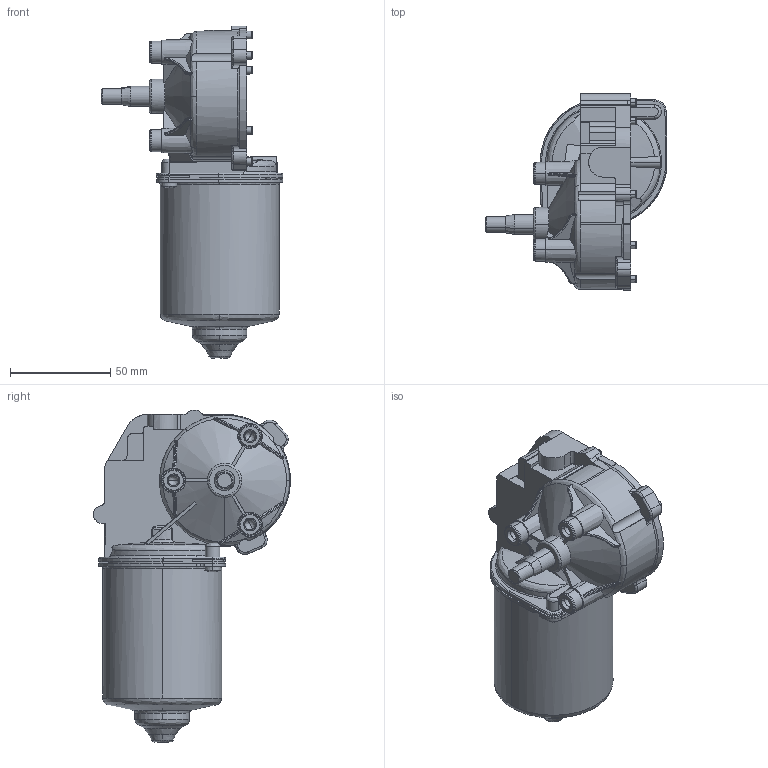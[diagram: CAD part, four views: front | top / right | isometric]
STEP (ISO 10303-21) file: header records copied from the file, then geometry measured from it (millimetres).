
FILE_DESCRIPTION (( 'STEP AP203' ), '1' );
FILE_NAME ('404988.step', '2016-06-16T12:26:54', ( '' ), ( '' ), 'SwSTEP 2.0', 'SolidWorks 2008', '' );
FILE_SCHEMA (( 'CONFIG_CONTROL_DESIGN' ));
Length unit declared in the file: millimetre
Products named in the file (3): Shaft-W205-KGK; Motor-DCK31-Right-KGK; 404988
Assembly tree (2 placements, depth 2):
  404988
    Shaft-W205-KGK
    Motor-DCK31-Right-KGK
Bounding box: 90.5 x 98.03 x 165.2 mm (x, y, z)
Volume: 223800.1 mm3; surface area: 67675.1 mm2
Topology: 2 solids, 4 shells, 601 faces, 1735 edges, 1155 vertices
Faces by surface type: plane 172, cylinder 169, bspline 167, cone 93
Entity records: 33342 total; most frequent: CARTESIAN_POINT 19362, ORIENTED_EDGE 3444, DIRECTION 2032, EDGE_CURVE 1722, VERTEX_POINT 1155, B_SPLINE_CURVE_WITH_KNOTS 867, AXIS2_PLACEMENT_3D 779, EDGE_LOOP 639
